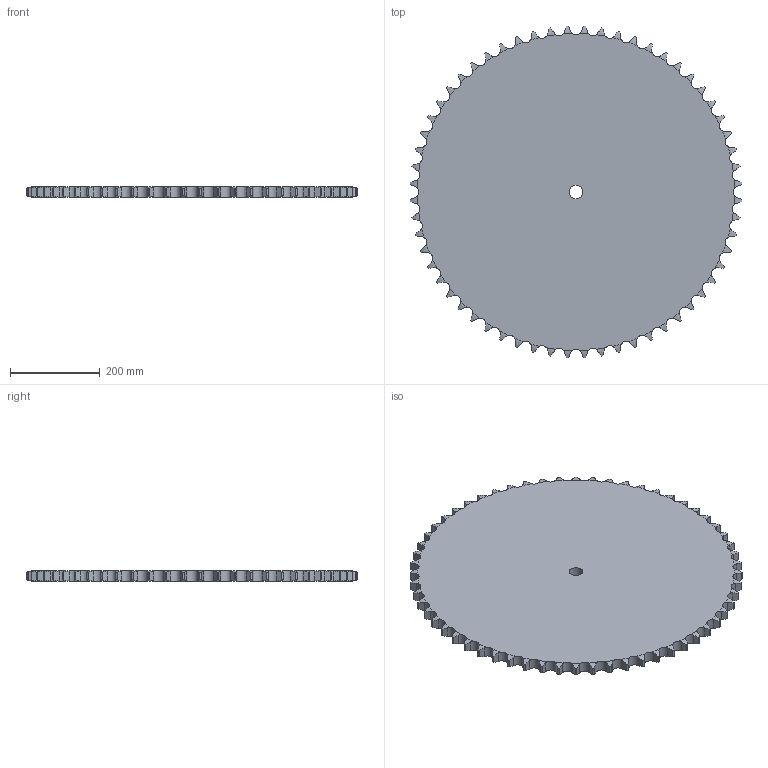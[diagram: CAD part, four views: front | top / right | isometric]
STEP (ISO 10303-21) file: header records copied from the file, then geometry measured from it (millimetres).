
FILE_DESCRIPTION((''),'2;1');
FILE_NAME('500-701-0060_PRT','2021-02-12T',('Brieden'),('Brieden'),'PRO/ENGINEER BY PARAMETRIC TECHNOLOGY CORPORATION, 2010160','PRO/ENGINEER BY PARAMETRIC TECHNOLOGY CORPORATION, 2010160','');
FILE_SCHEMA(('AUTOMOTIVE_DESIGN { 1 0 10303 214 1 1 1 1 }'));
Length unit declared in the file: millimetre
Products named in the file (1): 500-701-0060_PRT
Bounding box: 740.86 x 740.86 x 24.1 mm (x, y, z)
Volume: 9685214.1 mm3; surface area: 886569 mm2
Topology: 1 solids, 1 shells, 364 faces, 1086 edges, 724 vertices
Faces by surface type: cylinder 242, torus 120, plane 2
Entity records: 18808 total; most frequent: CARTESIAN_POINT 6279, ORIENTED_EDGE 2172, DIRECTION 1698, PRESENTATION_STYLE_ASSIGNMENT 1087, STYLED_ITEM 1087, CURVE_STYLE 1086, EDGE_CURVE 1086, AXIS2_PLACEMENT_3D 728
